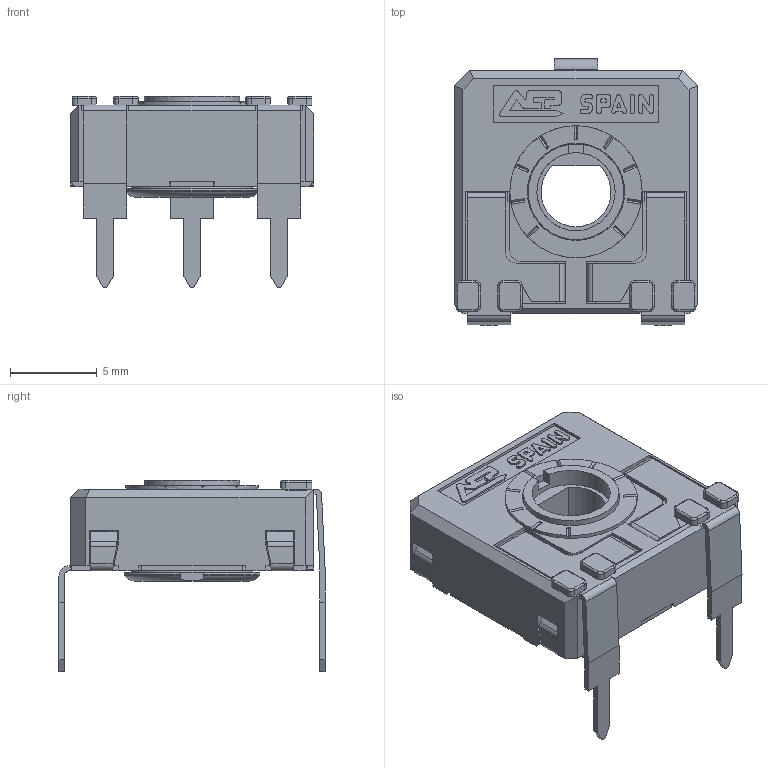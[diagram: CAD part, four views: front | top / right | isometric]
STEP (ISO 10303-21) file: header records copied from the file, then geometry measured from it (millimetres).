
FILE_DESCRIPTION(/* description */ (''),/* implementation_level */ '2;1');
FILE_NAME(/* name */ '\\SERVERACP\intercambio\Ignacio Santa Cecilia\Nueva WEB 2025\CA14 - CE14\CA14FV15 RT-RO.stp',/* time_stamp */ '2025-06-12T09:46:58+02:00',/* author */ ('CEM'),/* organization */ (''),/* preprocessor_version */ 'ST-DEVELOPER v17',/* originating_system */ 'Autodesk Inventor 2018',/* authorisation */ '');
FILE_SCHEMA (('AUTOMOTIVE_DESIGN { 1 0 10303 214 3 1 1 }'));
Length unit declared in the file: millimetre
Products named in the file (1): CARCASA CA14 PGA
Bounding box: 14 x 15.3 x 11 mm (x, y, z)
Volume: 533.7 mm3; surface area: 1486.6 mm2
Topology: 1 solids, 1 shells, 674 faces, 1906 edges, 1228 vertices
Faces by surface type: plane 499, cylinder 138, torus 23, bspline 8, cone 6
Full cylindrical faces by diameter (mm): 4.5 x1, 5.5 x1, 5.6 x1, 5.752 x1, 6.8 x1, 7.6 x1
Entity records: 22035 total; most frequent: CARTESIAN_POINT 4106, ORIENTED_EDGE 3812, DIRECTION 3557, EDGE_CURVE 1906, LINE 1499, VECTOR 1499, VERTEX_POINT 1228, AXIS2_PLACEMENT_3D 1029
